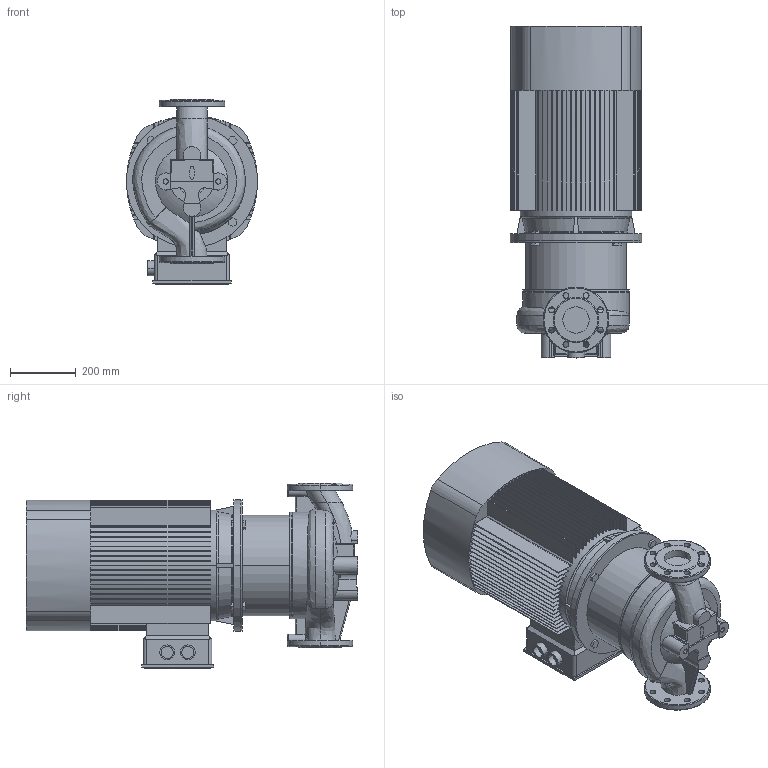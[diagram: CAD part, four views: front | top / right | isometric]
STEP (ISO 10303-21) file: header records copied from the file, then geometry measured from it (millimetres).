
FILE_DESCRIPTION (( 'STEP AP203' ), '1' );
FILE_NAME ('TD80-67G_2.STEP', '2022-05-01T13:15:04', ( '' ), ( '' ), 'SwSTEP 2.0', 'SolidWorks 2019', '' );
FILE_SCHEMA (( 'CONFIG_CONTROL_DESIGN' ));
Length unit declared in the file: millimetre
Products named in the file (4): TD80-67G_2; Pr_ch 80_TD80-67G_2; Fon_80_TD80-67G_2; ED_B5_YE2-200L1-2 (30)
Assembly tree (3 placements, depth 2):
  TD80-67G_2
    Pr_ch 80_TD80-67G_2
    Fon_80_TD80-67G_2
    ED_B5_YE2-200L1-2 (30)
Bounding box: 400 x 1009 x 564 mm (x, y, z)
Volume: 91517225.4 mm3; surface area: 3969228.3 mm2
Topology: 13 solids, 15 shells, 734 faces, 1986 edges, 1311 vertices
Faces by surface type: plane 502, cylinder 160, torus 27, bspline 26, cone 17, sphere 2
Entity records: 29932 total; most frequent: CARTESIAN_POINT 10740, ORIENTED_EDGE 3964, DIRECTION 3915, EDGE_CURVE 1982, AXIS2_PLACEMENT_3D 1364, VERTEX_POINT 1311, LINE 1187, VECTOR 1187
